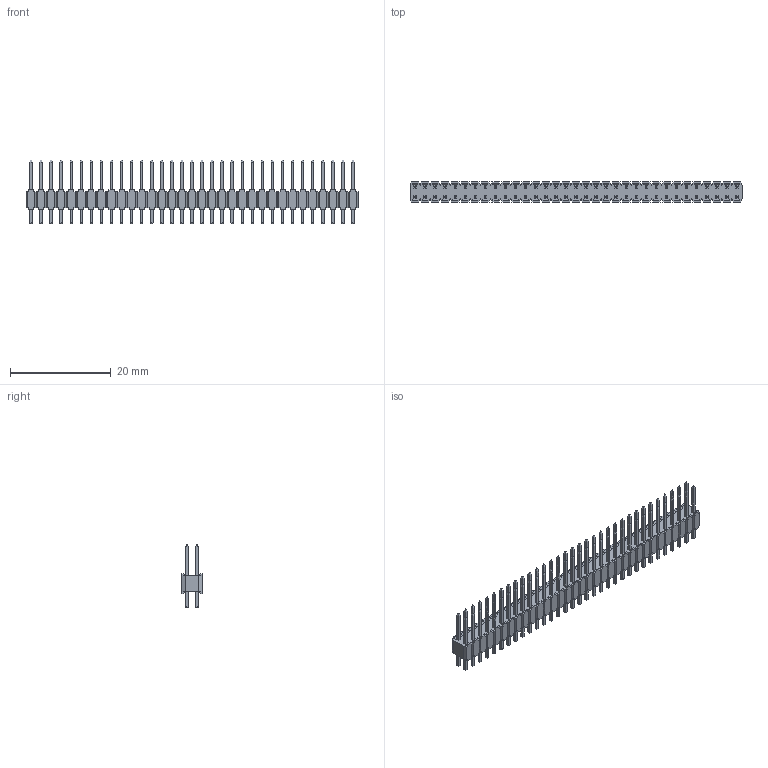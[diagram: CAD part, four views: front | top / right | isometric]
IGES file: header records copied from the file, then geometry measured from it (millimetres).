
Global section: file name: N:\GOLF_VI_2mm_UGII\9514XX_806XX06_AR\951466-8060806-AR.igs; native system: NX V3.0; preprocessor: UGS NX IGES V4.0; date: 20070314.103439; units: millimetre
Bounding box: 66 x 4 x 12.7 mm (x, y, z)
Surface area: 2488.7 mm2 (no closed solid volume)
Topology: 0 solids, 0 shells, 1918 faces, 9649 edges, 9649 vertices
Faces by surface type: bspline 1918
